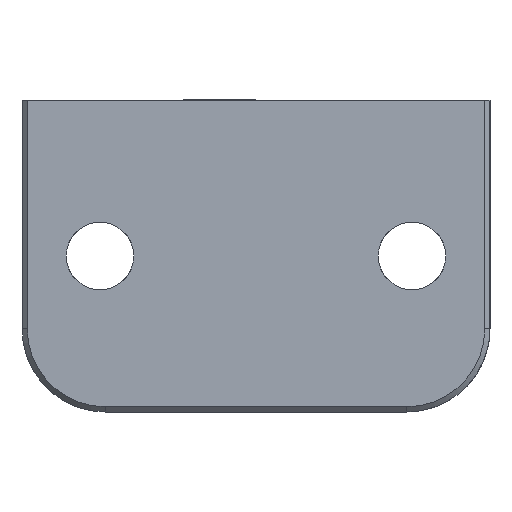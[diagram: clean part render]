
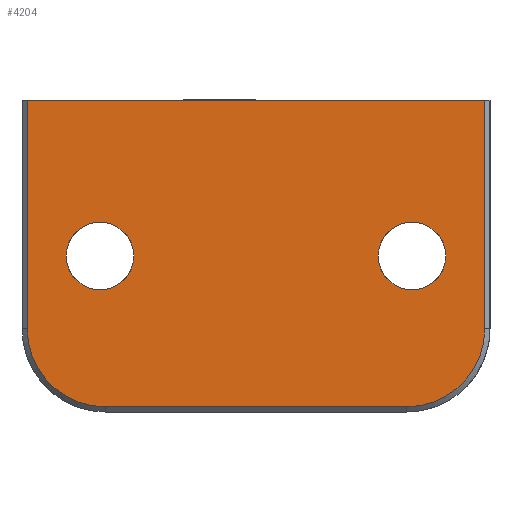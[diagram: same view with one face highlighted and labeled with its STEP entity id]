
A CAD part, front view. The second image highlights one B-rep face of the part: STEP entity #4204.
In plain terms, the highlighted planar face has unit normal (0, -1, 0).
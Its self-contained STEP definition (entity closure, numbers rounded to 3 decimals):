
#3805=CARTESIAN_POINT('Vertex',(-15.,0.,-22.)) ;
#3808=CARTESIAN_POINT('Line Origine',(-15.,0.,0.)) ;
#3812=CARTESIAN_POINT('Vertex',(-15.,0.,22.)) ;
#4042=CARTESIAN_POINT('Vertex',(7.,0.,-22.)) ;
#4045=CARTESIAN_POINT('Line Origine',(-4.,0.,-22.)) ;
#4057=CARTESIAN_POINT('Axis2P3D Location',(-15.,0.,22.5)) ;
#4062=CARTESIAN_POINT('Axis2P3D Location',(7.,0.,-14.5)) ;
#4066=CARTESIAN_POINT('Vertex',(14.5,0.,-14.5)) ;
#4069=CARTESIAN_POINT('Line Origine',(14.5,0.,0.)) ;
#4073=CARTESIAN_POINT('Vertex',(14.5,0.,14.5)) ;
#4076=CARTESIAN_POINT('Axis2P3D Location',(7.,0.,14.5)) ;
#4080=CARTESIAN_POINT('Vertex',(7.,0.,22.)) ;
#4083=CARTESIAN_POINT('Line Origine',(-4.,0.,22.)) ;
#4097=CARTESIAN_POINT('Control Point',(0.,0.,18.25)) ;
#4098=CARTESIAN_POINT('Control Point',(0.353,0.,18.25)) ;
#4099=CARTESIAN_POINT('Control Point',(0.707,0.,18.202)) ;
#4100=CARTESIAN_POINT('Control Point',(1.051,0.,18.106)) ;
#4101=CARTESIAN_POINT('Control Point',(1.705,0.,17.823)) ;
#4102=CARTESIAN_POINT('Control Point',(2.261,0.,17.375)) ;
#4103=CARTESIAN_POINT('Control Point',(2.506,0.,17.115)) ;
#4104=CARTESIAN_POINT('Control Point',(2.919,0.,16.534)) ;
#4105=CARTESIAN_POINT('Control Point',(3.163,0.,15.864)) ;
#4106=CARTESIAN_POINT('Control Point',(3.238,0.,15.514)) ;
#4107=CARTESIAN_POINT('Control Point',(3.292,0.,14.803)) ;
#4108=CARTESIAN_POINT('Control Point',(3.154,0.,14.104)) ;
#4109=CARTESIAN_POINT('Control Point',(3.038,0.,13.765)) ;
#4110=CARTESIAN_POINT('Control Point',(2.716,0.,13.129)) ;
#4111=CARTESIAN_POINT('Control Point',(2.236,0.,12.602)) ;
#4112=CARTESIAN_POINT('Control Point',(1.962,0.,12.372)) ;
#4113=CARTESIAN_POINT('Control Point',(1.424,0.,12.036)) ;
#4114=CARTESIAN_POINT('Control Point',(0.823,0.,11.838)) ;
#4115=CARTESIAN_POINT('Control Point',(0.551,0.,11.779)) ;
#4116=CARTESIAN_POINT('Control Point',(0.276,0.,11.75)) ;
#4117=CARTESIAN_POINT('Control Point',(0.,0.,11.75)) ;
#4118=CARTESIAN_POINT('Vertex',(0.,0.,18.25)) ;
#4120=CARTESIAN_POINT('Vertex',(0.,0.,11.75)) ;
#4124=CARTESIAN_POINT('Control Point',(0.,0.,11.75)) ;
#4125=CARTESIAN_POINT('Control Point',(-0.353,0.,11.75)) ;
#4126=CARTESIAN_POINT('Control Point',(-0.707,0.,11.798)) ;
#4127=CARTESIAN_POINT('Control Point',(-1.051,0.,11.894)) ;
#4128=CARTESIAN_POINT('Control Point',(-1.705,0.,12.177)) ;
#4129=CARTESIAN_POINT('Control Point',(-2.261,0.,12.625)) ;
#4130=CARTESIAN_POINT('Control Point',(-2.506,0.,12.885)) ;
#4131=CARTESIAN_POINT('Control Point',(-2.919,0.,13.466)) ;
#4132=CARTESIAN_POINT('Control Point',(-3.163,0.,14.136)) ;
#4133=CARTESIAN_POINT('Control Point',(-3.238,0.,14.486)) ;
#4134=CARTESIAN_POINT('Control Point',(-3.292,0.,15.197)) ;
#4135=CARTESIAN_POINT('Control Point',(-3.154,0.,15.896)) ;
#4136=CARTESIAN_POINT('Control Point',(-3.038,0.,16.235)) ;
#4137=CARTESIAN_POINT('Control Point',(-2.716,0.,16.871)) ;
#4138=CARTESIAN_POINT('Control Point',(-2.236,0.,17.398)) ;
#4139=CARTESIAN_POINT('Control Point',(-1.962,0.,17.628)) ;
#4140=CARTESIAN_POINT('Control Point',(-1.424,0.,17.964)) ;
#4141=CARTESIAN_POINT('Control Point',(-0.823,0.,18.162)) ;
#4142=CARTESIAN_POINT('Control Point',(-0.551,0.,18.221)) ;
#4143=CARTESIAN_POINT('Control Point',(-0.276,0.,18.25)) ;
#4144=CARTESIAN_POINT('Control Point',(0.,0.,18.25)) ;
#4151=CARTESIAN_POINT('Control Point',(0.,0.,-11.75)) ;
#4152=CARTESIAN_POINT('Control Point',(0.353,0.,-11.75)) ;
#4153=CARTESIAN_POINT('Control Point',(0.707,0.,-11.798)) ;
#4154=CARTESIAN_POINT('Control Point',(1.051,0.,-11.894)) ;
#4155=CARTESIAN_POINT('Control Point',(1.705,0.,-12.177)) ;
#4156=CARTESIAN_POINT('Control Point',(2.261,0.,-12.625)) ;
#4157=CARTESIAN_POINT('Control Point',(2.506,0.,-12.885)) ;
#4158=CARTESIAN_POINT('Control Point',(2.919,0.,-13.466)) ;
#4159=CARTESIAN_POINT('Control Point',(3.163,0.,-14.136)) ;
#4160=CARTESIAN_POINT('Control Point',(3.238,0.,-14.486)) ;
#4161=CARTESIAN_POINT('Control Point',(3.292,0.,-15.197)) ;
#4162=CARTESIAN_POINT('Control Point',(3.154,0.,-15.896)) ;
#4163=CARTESIAN_POINT('Control Point',(3.038,0.,-16.235)) ;
#4164=CARTESIAN_POINT('Control Point',(2.716,0.,-16.871)) ;
#4165=CARTESIAN_POINT('Control Point',(2.236,0.,-17.398)) ;
#4166=CARTESIAN_POINT('Control Point',(1.962,0.,-17.628)) ;
#4167=CARTESIAN_POINT('Control Point',(1.424,0.,-17.964)) ;
#4168=CARTESIAN_POINT('Control Point',(0.823,0.,-18.162)) ;
#4169=CARTESIAN_POINT('Control Point',(0.551,0.,-18.221)) ;
#4170=CARTESIAN_POINT('Control Point',(0.276,0.,-18.25)) ;
#4171=CARTESIAN_POINT('Control Point',(0.,0.,-18.25)) ;
#4172=CARTESIAN_POINT('Vertex',(0.,0.,-11.75)) ;
#4174=CARTESIAN_POINT('Vertex',(0.,0.,-18.25)) ;
#4178=CARTESIAN_POINT('Control Point',(0.,0.,-18.25)) ;
#4179=CARTESIAN_POINT('Control Point',(-0.353,0.,-18.25)) ;
#4180=CARTESIAN_POINT('Control Point',(-0.707,0.,-18.202)) ;
#4181=CARTESIAN_POINT('Control Point',(-1.051,0.,-18.106)) ;
#4182=CARTESIAN_POINT('Control Point',(-1.705,0.,-17.823)) ;
#4183=CARTESIAN_POINT('Control Point',(-2.261,0.,-17.375)) ;
#4184=CARTESIAN_POINT('Control Point',(-2.506,0.,-17.115)) ;
#4185=CARTESIAN_POINT('Control Point',(-2.919,0.,-16.534)) ;
#4186=CARTESIAN_POINT('Control Point',(-3.163,0.,-15.864)) ;
#4187=CARTESIAN_POINT('Control Point',(-3.238,0.,-15.514)) ;
#4188=CARTESIAN_POINT('Control Point',(-3.292,0.,-14.803)) ;
#4189=CARTESIAN_POINT('Control Point',(-3.154,0.,-14.104)) ;
#4190=CARTESIAN_POINT('Control Point',(-3.038,0.,-13.765)) ;
#4191=CARTESIAN_POINT('Control Point',(-2.716,0.,-13.129)) ;
#4192=CARTESIAN_POINT('Control Point',(-2.236,0.,-12.602)) ;
#4193=CARTESIAN_POINT('Control Point',(-1.962,0.,-12.372)) ;
#4194=CARTESIAN_POINT('Control Point',(-1.424,0.,-12.036)) ;
#4195=CARTESIAN_POINT('Control Point',(-0.823,0.,-11.838)) ;
#4196=CARTESIAN_POINT('Control Point',(-0.551,0.,-11.779)) ;
#4197=CARTESIAN_POINT('Control Point',(-0.276,0.,-11.75)) ;
#4198=CARTESIAN_POINT('Control Point',(0.,0.,-11.75)) ;
#3809=DIRECTION('Vector Direction',(0.,0.,-1.)) ;
#4046=DIRECTION('Vector Direction',(1.,0.,0.)) ;
#4058=DIRECTION('Axis2P3D Direction',(0.,-1.,0.)) ;
#4059=DIRECTION('Axis2P3D XDirection',(0.,0.,-1.)) ;
#4063=DIRECTION('Axis2P3D Direction',(0.,-1.,0.)) ;
#4070=DIRECTION('Vector Direction',(0.,0.,1.)) ;
#4077=DIRECTION('Axis2P3D Direction',(0.,-1.,0.)) ;
#4084=DIRECTION('Vector Direction',(-1.,0.,0.)) ;
#4060=AXIS2_PLACEMENT_3D('Plane Axis2P3D',#4057,#4058,#4059) ;
#4064=AXIS2_PLACEMENT_3D('Circle Axis2P3D',#4062,#4063,$) ;
#4078=AXIS2_PLACEMENT_3D('Circle Axis2P3D',#4076,#4077,$) ;
#4089=ORIENTED_EDGE('',*,*,#3814,.T.) ;
#4090=ORIENTED_EDGE('',*,*,#4049,.T.) ;
#4091=ORIENTED_EDGE('',*,*,#4068,.T.) ;
#4092=ORIENTED_EDGE('',*,*,#4075,.T.) ;
#4093=ORIENTED_EDGE('',*,*,#4082,.T.) ;
#4094=ORIENTED_EDGE('',*,*,#4087,.T.) ;
#4147=ORIENTED_EDGE('',*,*,#4122,.T.) ;
#4148=ORIENTED_EDGE('',*,*,#4145,.T.) ;
#4201=ORIENTED_EDGE('',*,*,#4176,.T.) ;
#4202=ORIENTED_EDGE('',*,*,#4199,.T.) ;
#4149=FACE_BOUND('',#4146,.T.) ;
#4203=FACE_BOUND('',#4200,.T.) ;
#3810=VECTOR('Line Direction',#3809,1.) ;
#4047=VECTOR('Line Direction',#4046,1.) ;
#4071=VECTOR('Line Direction',#4070,1.) ;
#4085=VECTOR('Line Direction',#4084,1.) ;
#4204=ADVANCED_FACE('MANIFOLD_SOLID_BREP #3995',(#4095,#4149,#4203),#4061,.T.) ;
#4096=B_SPLINE_CURVE_WITH_KNOTS('',5,(#4097,#4098,#4099,#4100,#4101,#4102,#4103,#4104,#4105,#4106,#4107,#4108,#4109,#4110,#4111,#4112,#4113,#4114,#4115,#4116,#4117),.UNSPECIFIED.,.F.,.U.,(6,3,3,3,3,3,6),(0.,2.498,4.996,7.494,9.992,12.49,14.439),.UNSPECIFIED.) ;
#4123=B_SPLINE_CURVE_WITH_KNOTS('',5,(#4124,#4125,#4126,#4127,#4128,#4129,#4130,#4131,#4132,#4133,#4134,#4135,#4136,#4137,#4138,#4139,#4140,#4141,#4142,#4143,#4144),.UNSPECIFIED.,.F.,.U.,(6,3,3,3,3,3,6),(0.,2.498,4.996,7.494,9.992,12.49,14.439),.UNSPECIFIED.) ;
#4150=B_SPLINE_CURVE_WITH_KNOTS('',5,(#4151,#4152,#4153,#4154,#4155,#4156,#4157,#4158,#4159,#4160,#4161,#4162,#4163,#4164,#4165,#4166,#4167,#4168,#4169,#4170,#4171),.UNSPECIFIED.,.F.,.U.,(6,3,3,3,3,3,6),(0.,2.498,4.996,7.494,9.992,12.49,14.439),.UNSPECIFIED.) ;
#4177=B_SPLINE_CURVE_WITH_KNOTS('',5,(#4178,#4179,#4180,#4181,#4182,#4183,#4184,#4185,#4186,#4187,#4188,#4189,#4190,#4191,#4192,#4193,#4194,#4195,#4196,#4197,#4198),.UNSPECIFIED.,.F.,.U.,(6,3,3,3,3,3,6),(0.,2.498,4.996,7.494,9.992,12.49,14.439),.UNSPECIFIED.) ;
#4065=CIRCLE('generated circle',#4064,7.5) ;
#4079=CIRCLE('generated circle',#4078,7.5) ;
#3814=EDGE_CURVE('',#3813,#3806,#3811,.T.) ;
#4049=EDGE_CURVE('',#3806,#4043,#4048,.T.) ;
#4068=EDGE_CURVE('',#4043,#4067,#4065,.T.) ;
#4075=EDGE_CURVE('',#4067,#4074,#4072,.T.) ;
#4082=EDGE_CURVE('',#4074,#4081,#4079,.T.) ;
#4087=EDGE_CURVE('',#4081,#3813,#4086,.T.) ;
#4122=EDGE_CURVE('',#4119,#4121,#4096,.T.) ;
#4145=EDGE_CURVE('',#4121,#4119,#4123,.T.) ;
#4176=EDGE_CURVE('',#4173,#4175,#4150,.T.) ;
#4199=EDGE_CURVE('',#4175,#4173,#4177,.T.) ;
#4088=EDGE_LOOP('',(#4089,#4090,#4091,#4092,#4093,#4094)) ;
#4146=EDGE_LOOP('',(#4147,#4148)) ;
#4200=EDGE_LOOP('',(#4201,#4202)) ;
#4095=FACE_OUTER_BOUND('',#4088,.T.) ;
#3811=LINE('Line',#3808,#3810) ;
#4048=LINE('Line',#4045,#4047) ;
#4072=LINE('Line',#4069,#4071) ;
#4086=LINE('Line',#4083,#4085) ;
#4061=PLANE('Plane',#4060) ;
#3806=VERTEX_POINT('',#3805) ;
#3813=VERTEX_POINT('',#3812) ;
#4043=VERTEX_POINT('',#4042) ;
#4067=VERTEX_POINT('',#4066) ;
#4074=VERTEX_POINT('',#4073) ;
#4081=VERTEX_POINT('',#4080) ;
#4119=VERTEX_POINT('',#4118) ;
#4121=VERTEX_POINT('',#4120) ;
#4173=VERTEX_POINT('',#4172) ;
#4175=VERTEX_POINT('',#4174) ;
